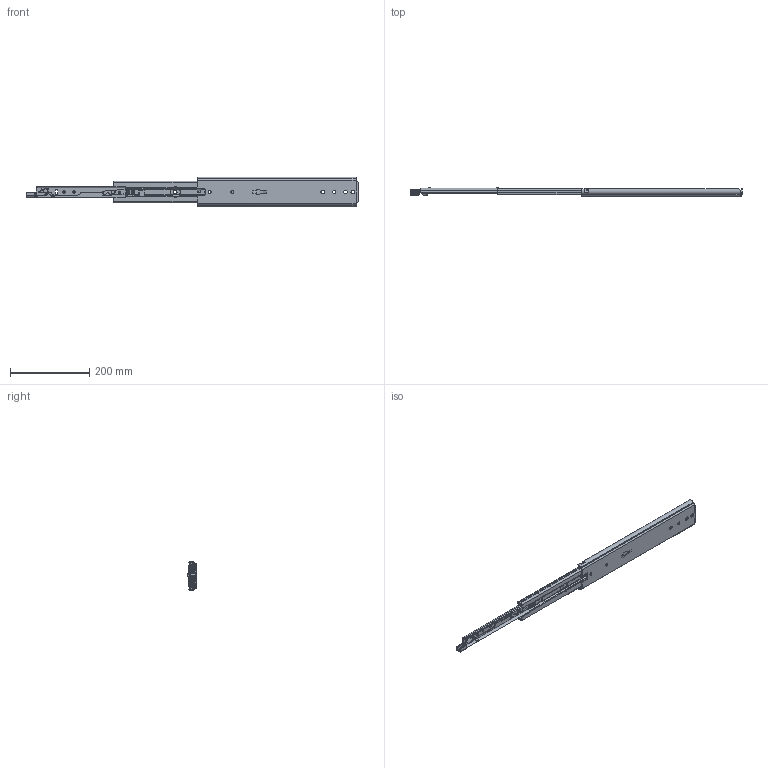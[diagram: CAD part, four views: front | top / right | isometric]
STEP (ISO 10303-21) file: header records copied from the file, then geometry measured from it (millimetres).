
FILE_DESCRIPTION((''),'2;1');
FILE_NAME('DG-76-3S-16YIN_ASM','2023-05-09T',('jishu015'),(''),'PRO/ENGINEER BY PARAMETRIC TECHNOLOGY CORPORATION, 2010280','PRO/ENGINEER BY PARAMETRIC TECHNOLOGY CORPORATION, 2010280','');
FILE_SCHEMA(('CONFIG_CONTROL_DESIGN'));
Products named in the file (30): KP-76-04WAIKE-1816_; 1076-WAIKEZIDANJIAO16_; WAIK16__ASM; 1076XIAOZHUTIAO-22516_; 16_; 1076XIAOZHUTIAO-17516__ASM; KP-76-04ZHONGGUI1816_; 76CHANGGUIZHONGGUIJIAO16_; 3X6WODIN16_; ZHONGGUIBAIKOU16_; PJ-76-30; PJ-76-03; 76-XIAOZHUJIA-11; GANGZHU-XIAO; ZHUJIA-XIAO_ASM; ZHONGGUI6__ASM; KP-76-04NEIGUI1816_; PJ-76-31; DAOGPIAN16_; 1053-3SBANJ01; JIAO-11; 76XINSUOKOU; PJ-338; PJ-356; PJ-357; PJ-336; M4X4; 76-TANHUANG1; NEIGUI16__ASM; DG-76-3S-16YIN_ASM
Assembly tree (47 placements, depth 4):
  DG-76-3S-16YIN_ASM
    WAIK16__ASM
      KP-76-04WAIKE-1816_
      1076-WAIKEZIDANJIAO16_  x2
    1076XIAOZHUTIAO-17516__ASM  x2
      1076XIAOZHUTIAO-22516_
      16_
    ZHONGGUI6__ASM
      KP-76-04ZHONGGUI1816_
      76CHANGGUIZHONGGUIJIAO16_
      3X6WODIN16_
      ZHONGGUIBAIKOU16_
      PJ-76-30
      PJ-76-03
      ZHUJIA-XIAO_ASM
        76-XIAOZHUJIA-11
        GANGZHU-XIAO  x12
    NEIGUI16__ASM
      KP-76-04NEIGUI1816_
      PJ-76-31
      DAOGPIAN16_
      1053-3SBANJ01
      JIAO-11
      76XINSUOKOU
      PJ-338
      PJ-356
      PJ-357
      PJ-336
      M4X4
      76-TANHUANG1
Bounding box: 838.72 x 20.7 x 75.3 mm (x, y, z)
Volume: 264377.3 mm3; surface area: 255156.2 mm2
Topology: 49 solids, 49 shells, 1674 faces, 4906 edges, 3158 vertices
Faces by surface type: plane 759, cylinder 623, bspline 110, torus 76, sphere 55, cone 28, extrusion 23
Entity records: 60674 total; most frequent: CARTESIAN_POINT 19460, ORIENTED_EDGE 9008, DIRECTION 8084, EDGE_CURVE 4504, VERTEX_POINT 2946, AXIS2_PLACEMENT_3D 2850, VECTOR 2384, LINE 2361
